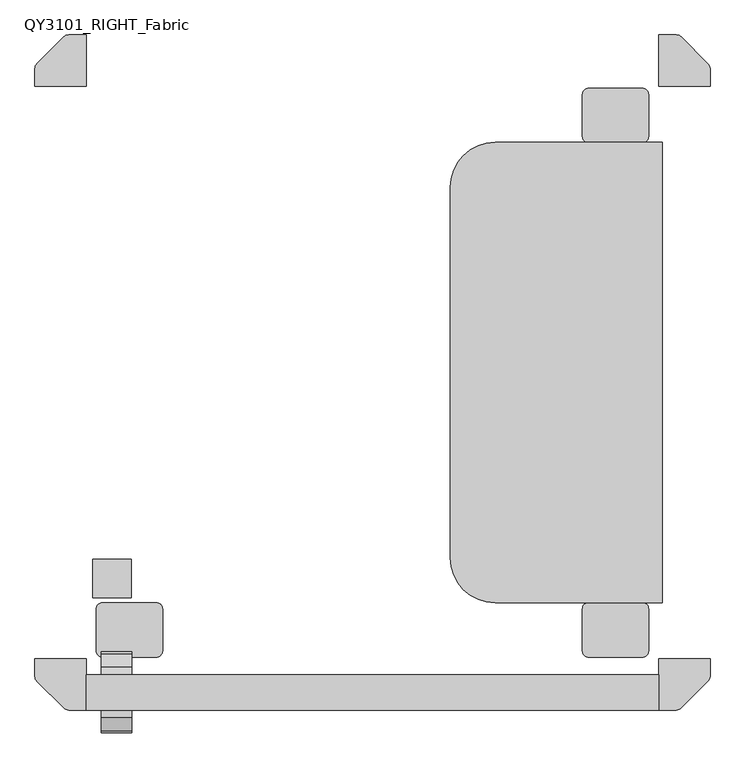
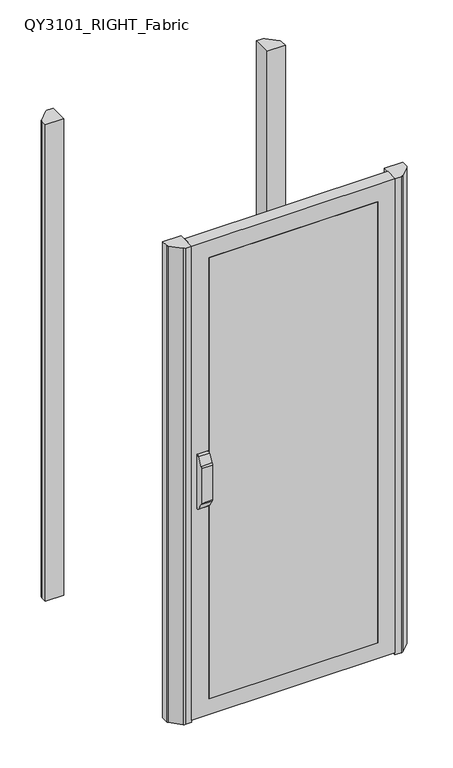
"""IFC4 building model written with IfcOpenShell, lengths in millimetres: furniture geometry, Qyos_100 : QY3101_RIGHT_Fabric."""

from ifc_helpers import new_model, si_unit, point, frame, frame_2d, origin, origin_with_axes, place, context, project, spatial, polyline, circle_curve, ellipse_curve, trimmed, segment, composite_curve, outline, extrude, source, transform, mapped, element, save
from ifc_brep_helpers import plane_surface, cylinder_surface, revolved_surface, advanced_brep


def qy3101_right_fabric_589a81fd(model_context):
    return source(origin(), model_context, "Body", "SolidModel", [
        advanced_brep(
        [(-374.085107, -525.6314016, 980.9779398), (-374.085107, -525.6314016, 985.9647191), (-374.085107, -537.9469969, 991.7354618), (-374.085107, -555.0438473, 1019.0961419), (-374.085107, -557.6320377, 1028.7554001), (-374.085107, -557.6320377, 1173.7554001), (-374.085107, -553.2020658, 1196.5456299), (-374.085107, -536.4262787, 1221.4167571), (-374.085107, -525.6314016, 1224.0702851), (-374.085107, -525.6314016, 1230.9669096), (-374.085107, -537.162848, 1226.3079029), (-374.085107, -557.7819627, 1194.5572505), (-374.085107, -560.5, 1186.1919919), (-374.085107, -560.5, 1025.2), (-374.085107, -557.5610872, 1017.1254034), (-374.085107, -537.1968679, 985.7672556), (-422.0329647, -525.6314016, 1230.9669096), (-422.0329647, -525.6314016, 980.9779398), (-422.0329647, -537.1968679, 985.7672556), (-422.0329647, -557.5610872, 1017.1254034), (-422.0329647, -560.5, 1025.2), (-422.0329647, -560.5, 1186.1919919), (-422.0329647, -557.7819627, 1194.5572505), (-422.0329647, -537.162848, 1226.3079029), (-419.3636893, -525.6314016, 1224.0702851), (-419.3636893, -525.6314016, 985.9647191), (-419.3636893, -537.9469969, 991.7354618), (-419.3636893, -536.4262787, 1221.4167571), (-419.3636893, -553.2020658, 1196.5456299), (-419.3636893, -557.6320377, 1173.7554001), (-419.3636893, -557.6320377, 1028.7554001), (-419.3636893, -555.0438473, 1019.0961419)],
        [
            (0, 1),
            (1, 2, circle_curve(frame((-374.085107, -525.4805644, 1002.3136249), z_axis=(-1.0, 0.0, 0.0), x_axis=(0.0, -1.0, 0.0)), 16.3496016)),
            (2, 3, circle_curve(frame((-374.085107, 1120.4570487, 2047.0433119), z_axis=(-1.0, 0.0, 0.0), x_axis=(0.0, -1.0, 0.0)), 1965.7005461)),
            (3, 4, circle_curve(frame((-374.085107, -540.0644692, 1028.286235), z_axis=(-1.0, 0.0, 0.0), x_axis=(0.0, -1.0, 0.0)), 17.5738323)),
            (4, 5),
            (5, 6, circle_curve(frame((-374.085107, -496.7942676, 1173.7554001), z_axis=(-1.0, 0.0, 0.0), x_axis=(0.0, -1.0, 0.0)), 60.8377701)),
            (6, 7, circle_curve(frame((-374.085107, -812.3576761, 1389.4415655), z_axis=(1.0, 0.0, 0.0), x_axis=(0.0, -1.0, 0.0)), 323.0641922)),
            (7, 8, circle_curve(frame((-374.085107, -525.6314016, 1200.7860796), z_axis=(-1.0, 0.0, 0.0), x_axis=(0.0, -1.0, 0.0)), 23.2842055)),
            (8, 9),
            (9, 10, circle_curve(frame((-374.085107, -527.4087289, 1218.7657801), z_axis=(1.0, 0.0, 0.0), x_axis=(0.0, -1.0, 0.0)), 12.3299009)),
            (10, 11, circle_curve(frame((-374.085107, 71.0762231, 808.7424006), z_axis=(1.0, 0.0, 0.0), x_axis=(0.0, -1.0, 0.0)), 737.777552)),
            (11, 12, circle_curve(frame((-374.085107, -541.7589098, 1184.7268438), z_axis=(1.0, 0.0, 0.0), x_axis=(0.0, -1.0, 0.0)), 18.7982744)),
            (12, 13),
            (13, 14, circle_curve(frame((-374.085107, -513.525418, 1037.7252129), z_axis=(1.0, 0.0, 0.0), x_axis=(0.0, -1.0, 0.0)), 48.615762)),
            (14, 15, circle_curve(frame((-374.085107, -160.5394908, 1252.6628295), z_axis=(1.0, 0.0, 0.0), x_axis=(0.0, -1.0, 0.0)), 461.6319174)),
            (15, 0, circle_curve(frame((-374.085107, -527.6091735, 992.560998), z_axis=(1.0, 0.0, 0.0), x_axis=(0.0, -1.0, 0.0)), 11.7506945)),
            (16, 17),
            (17, 18, circle_curve(frame((-422.0329647, -527.6091735, 992.560998), z_axis=(-1.0, 0.0, 0.0), x_axis=(0.0, -1.0, 0.0)), 11.7506945)),
            (18, 19, circle_curve(frame((-422.0329647, -160.5394908, 1252.6628295), z_axis=(-1.0, 0.0, 0.0), x_axis=(0.0, -1.0, 0.0)), 461.6319174)),
            (19, 20, circle_curve(frame((-422.0329647, -513.525418, 1037.7252129), z_axis=(-1.0, 0.0, 0.0), x_axis=(0.0, -1.0, 0.0)), 48.615762)),
            (20, 21),
            (21, 22, circle_curve(frame((-422.0329647, -541.7589098, 1184.7268438), z_axis=(-1.0, 0.0, 0.0), x_axis=(0.0, -1.0, 0.0)), 18.7982744)),
            (22, 23, circle_curve(frame((-422.0329647, 71.0762231, 808.7424006), z_axis=(-1.0, 0.0, 0.0), x_axis=(0.0, -1.0, 0.0)), 737.777552)),
            (23, 16, circle_curve(frame((-422.0329647, -527.4087289, 1218.7657801), z_axis=(-1.0, 0.0, 0.0), x_axis=(0.0, -1.0, 0.0)), 12.3299009)),
            (16, 9),
            (8, 24),
            (24, 25),
            (25, 1),
            (0, 17),
            (15, 18),
            (14, 19),
            (13, 20),
            (12, 21),
            (11, 22),
            (10, 23),
            (26, 25, circle_curve(frame((-419.3636893, -525.4805644, 1002.3136249), z_axis=(1.0, 0.0, 0.0), x_axis=(0.0, -1.0, 0.0)), 16.3496016)),
            (24, 27, circle_curve(frame((-419.3636893, -525.6314016, 1200.7860796), z_axis=(1.0, 0.0, 0.0), x_axis=(0.0, -1.0, 0.0)), 23.2842055)),
            (27, 28, circle_curve(frame((-419.3636893, -812.3576761, 1389.4415655), z_axis=(-1.0, 0.0, 0.0), x_axis=(0.0, -1.0, 0.0)), 323.0641922)),
            (28, 29, circle_curve(frame((-419.3636893, -496.7942676, 1173.7554001), z_axis=(1.0, 0.0, 0.0), x_axis=(0.0, -1.0, 0.0)), 60.8377701)),
            (29, 30),
            (30, 31, circle_curve(frame((-419.3636893, -540.0644692, 1028.286235), z_axis=(1.0, 0.0, 0.0), x_axis=(0.0, -1.0, 0.0)), 17.5738323)),
            (31, 26, circle_curve(frame((-419.3636893, 1120.4570487, 2047.0433119), z_axis=(1.0, 0.0, 0.0), x_axis=(0.0, -1.0, 0.0)), 1965.7005461)),
            (26, 2),
            (31, 3),
            (30, 4),
            (29, 5),
            (28, 6),
            (27, 7),
        ],
        [
            plane_surface(frame((-374.085107, -525.6314016, 980.9779398), z_axis=(1.0, 0.0, 0.0), x_axis=(0.0, 0.0, -1.0))),
            plane_surface(frame((-422.0329647, -525.6314016, 980.9779398), z_axis=(-1.0, 0.0, 0.0), x_axis=(0.0, 0.0, 1.0))),
            plane_surface(frame((-374.085107, -525.6314016, 1230.9669096), z_axis=(0.0, 1.0, 0.0), x_axis=(-1.0, 0.0, 0.0))),
            cylinder_surface(frame((-422.0329647, -527.6091735, 992.560998), z_axis=(1.0, 0.0, 0.0), x_axis=(0.0, -1.0, 0.0)), 11.7506945),
            cylinder_surface(frame((-422.0329647, -160.5394908, 1252.6628295), z_axis=(1.0, 0.0, 0.0), x_axis=(0.0, -1.0, 0.0)), 461.6319174),
            cylinder_surface(frame((-422.0329647, -513.525418, 1037.7252129), z_axis=(1.0, 0.0, 0.0), x_axis=(0.0, -1.0, 0.0)), 48.615762),
            plane_surface(frame((-374.085107, -560.5, 1025.2), z_axis=(0.0, -1.0, 0.0), x_axis=(-1.0, 0.0, 0.0))),
            cylinder_surface(frame((-422.0329647, -541.7589098, 1184.7268438), z_axis=(1.0, 0.0, 0.0), x_axis=(0.0, -1.0, 0.0)), 18.7982744),
            cylinder_surface(frame((-422.0329647, 71.0762231, 808.7424006), z_axis=(1.0, 0.0, 0.0), x_axis=(0.0, -1.0, 0.0)), 737.777552),
            cylinder_surface(frame((-422.0329647, -527.4087289, 1218.7657801), z_axis=(1.0, 0.0, 0.0), x_axis=(0.0, -1.0, 0.0)), 12.3299009),
            plane_surface(frame((-419.3636893, -511.7185794, 1224.0702851), z_axis=(1.0, 0.0, 0.0), x_axis=(0.0, 0.0, 1.0))),
            revolved_surface(polyline([(-374.085107, -541.8301660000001, 1002.3136249), (-419.3636893, -541.8301660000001, 1002.3136249)]), (-419.3636893, -525.4805644, 1002.3136249), (1.0, 0.0, 0.0)),
            revolved_surface(polyline([(-374.085107, -845.2434974, 2047.0433119), (-419.3636893, -845.2434974, 2047.0433119)]), (-419.3636893, 1120.4570487, 2047.0433119), (1.0, 0.0, 0.0)),
            revolved_surface(polyline([(-374.085107, -557.6383015, 1028.286235), (-419.3636893, -557.6383015, 1028.286235)]), (-419.3636893, -540.0644692, 1028.286235), (1.0, 0.0, 0.0)),
            plane_surface(frame((-366.879078, -557.6320377, 1028.7554001), z_axis=(0.0, 1.0, 0.0), x_axis=(-1.0, 0.0, 0.0))),
            revolved_surface(polyline([(-374.085107, -557.6320377, 1173.7554001), (-419.3636893, -557.6320377, 1173.7554001)]), (-419.3636893, -496.7942676, 1173.7554001), (1.0, 0.0, 0.0)),
            cylinder_surface(frame((-419.3636893, -812.3576761, 1389.4415655), z_axis=(-1.0, 0.0, 0.0), x_axis=(0.0, -1.0, 0.0)), 323.0641922),
            revolved_surface(polyline([(-374.085107, -548.9156071, 1200.7860796), (-419.3636893, -548.9156071, 1200.7860796)]), (-419.3636893, -525.6314016, 1200.7860796), (1.0, 0.0, 0.0)),
        ],
        [
            (0, [[1, 2, 3, 4, 5, 6, 7, 8, 9, 10, 11, 12, 13, 14, 15, 16]]),
            (1, [[17, 18, 19, 20, 21, 22, 23, 24]]),
            (2, [[25, -9, 26, 27, 28, -1, 29, -17]]),
            (3, [[30, -18, -29, -16]]),
            (4, [[31, -19, -30, -15]]),
            (5, [[32, -20, -31, -14]]),
            (6, [[33, -21, -32, -13]]),
            (7, [[34, -22, -33, -12]]),
            (8, [[35, -23, -34, -11]]),
            (9, [[-25, -24, -35, -10]]),
            (10, [[36, -27, 37, 38, 39, 40, 41, 42]]),
            (11, [[43, -2, -28, -36]]),
            (12, [[44, -3, -43, -42]]),
            (13, [[45, -4, -44, -41]]),
            (14, [[46, -5, -45, -40]]),
            (15, [[47, -6, -46, -39]]),
            (16, [[48, -7, -47, -38]]),
            (17, [[-26, -8, -48, -37]]),
        ],
    ),
        extrude(outline(composite_curve([segment(polyline([(1230.9669096, -377.0853832), (1230.9669096, -417.0486701)]), True, "CONTINUOUS"), segment(trimmed(circle_curve(frame_2d((1225.973762, -417.0486701)), 4.9931477), [point((1230.9669096, -417.0486701))], [point((1225.973762, -422.0418178))], False, "CARTESIAN"), True, "CONTINUOUS"), segment(polyline([(1225.973762, -422.0418178), (985.9710874, -422.0418178)]), True, "CONTINUOUS"), segment(trimmed(circle_curve(frame_2d((985.9710874, -417.0486701)), 4.9931477), [point((985.9710874, -422.0418178))], [point((980.9779398, -417.0486701))], False, "CARTESIAN"), True, "CONTINUOUS"), segment(polyline([(980.9779398, -417.0486701), (980.9779398, -377.0831887)]), True, "CONTINUOUS"), segment(trimmed(circle_curve(frame_2d((983.9760215, -377.0831887)), 2.9980817), [point((980.9779398, -377.0831887))], [point((983.9760215, -374.085107))], False, "CARTESIAN"), True, "CONTINUOUS"), segment(polyline([(983.9760215, -374.085107), (985.9777208, -374.085107)]), True, "CONTINUOUS"), segment(trimmed(circle_curve(frame_2d((985.9777208, -376.3357001)), 2.2505931), [point((985.9777208, -374.085107))], [point((988.1941223, -375.9448887))], False, "CARTESIAN"), True, "CONTINUOUS"), segment(trimmed(circle_curve(frame_2d((1002.686839, -375.1402608)), 14.5150358), [point((988.1941223, -375.9448887))], [point((999.6402401, -389.331966))], True, "CARTESIAN"), True, "CONTINUOUS"), segment(trimmed(circle_curve(frame_2d((999.3564071, -397.3512428)), 8.0242982), [point((999.6402401, -389.331966))], [point((1007.3803501, -397.4267349))], False, "CARTESIAN"), True, "CONTINUOUS"), segment(trimmed(circle_curve(frame_2d((984.8527266, -400.9632944)), 22.803532), [point((1007.3803501, -397.4267349))], [point((1007.3098217, -404.9230861))], False, "CARTESIAN"), True, "CONTINUOUS"), segment(trimmed(circle_curve(frame_2d((1018.7344643, -406.9375589)), 11.600886), [point((1007.3098217, -404.9230861))], [point((1018.7344643, -418.5384449))], True, "CARTESIAN"), True, "CONTINUOUS"), segment(polyline([(1018.7344643, -418.5384449), (1193.2103851, -418.5384449)]), True, "CONTINUOUS"), segment(trimmed(circle_curve(frame_2d((1193.2103851, -406.5714853)), 11.9669596), [point((1193.2103851, -418.5384449))], [point((1205.1773447, -406.5714853))], True, "CARTESIAN"), True, "CONTINUOUS"), segment(polyline([(1205.1773447, -406.5714853), (1205.1773447, -398.0395804)]), True, "CONTINUOUS"), segment(trimmed(circle_curve(frame_2d((1213.8757406, -398.0395804)), 8.6983958), [point((1205.1773447, -398.0395804))], [point((1212.36528, -389.4733327))], False, "CARTESIAN"), True, "CONTINUOUS"), segment(trimmed(circle_curve(frame_2d((1209.9037954, -375.5135599)), 14.1751248), [point((1212.36528, -389.4733327))], [point((1224.0702851, -376.0082646))], True, "CARTESIAN"), True, "CONTINUOUS"), segment(trimmed(circle_curve(frame_2d((1225.9934427, -376.0082646)), 1.9231576), [point((1224.0702851, -376.0082646))], [point((1225.9934427, -374.085107))], False, "CARTESIAN"), True, "CONTINUOUS"), segment(polyline([(1225.9934427, -374.085107), (1227.9666334, -374.085107)]), True, "CONTINUOUS"), segment(trimmed(circle_curve(frame_2d((1227.9666334, -377.0853832)), 3.0002762), [point((1227.9666334, -374.085107))], [point((1230.9669096, -377.0853832))], False, "CARTESIAN"), True, "CONTINUOUS")], self_intersect=False)), frame((0.0, -525.6314016, 0.0), z_axis=(0.0, 1.0, 0.0), x_axis=(0.0, 0.0, 1.0)), (0.0, 0.0, 1.0), 0.6314016),
        advanced_brep(
        [(-374.085107, -469.3642803, 980.9779398), (-374.085107, -457.798814, 985.7672556), (-374.085107, -437.4345947, 1017.1254034), (-374.085107, -434.4956819, 1025.2), (-374.085107, -434.4956819, 1186.1919919), (-374.085107, -437.2137192, 1194.5572505), (-374.085107, -457.8328339, 1226.3079029), (-374.085107, -469.3642803, 1230.9669096), (-374.085107, -469.3642803, 1224.0702851), (-374.085107, -458.5694032, 1221.4167571), (-374.085107, -441.7936161, 1196.5456299), (-374.085107, -437.3636441, 1173.7554001), (-374.085107, -437.3636441, 1028.7554001), (-374.085107, -439.9518346, 1019.0961419), (-374.085107, -457.048685, 991.7354618), (-374.085107, -469.3642803, 985.9647191), (-422.0329647, -469.3642803, 1230.9669096), (-422.0329647, -457.8328339, 1226.3079029), (-422.0329647, -437.2137192, 1194.5572505), (-422.0329647, -434.4956819, 1186.1919919), (-422.0329647, -434.4956819, 1025.2), (-422.0329647, -437.4345947, 1017.1254034), (-422.0329647, -457.798814, 985.7672556), (-422.0329647, -469.3642803, 980.9779398), (-419.3636893, -469.3642803, 985.9647191), (-419.3636893, -469.3642803, 1224.0702851), (-419.3636893, -457.048685, 991.7354618), (-419.3636893, -439.9518346, 1019.0961419), (-419.3636893, -437.3636441, 1028.7554001), (-419.3636893, -437.3636441, 1173.7554001), (-419.3636893, -441.7936161, 1196.5456299), (-419.3636893, -458.5694032, 1221.4167571)],
        [
            (0, 1, circle_curve(frame((-374.085107, -467.3865084, 992.560998), z_axis=(1.0, 0.0, 0.0), x_axis=(0.0, 1.0, 0.0)), 11.7506945)),
            (1, 2, circle_curve(frame((-374.085107, -834.4561911, 1252.6628295), z_axis=(1.0, 0.0, 0.0), x_axis=(0.0, 1.0, 0.0)), 461.6319174)),
            (2, 3, circle_curve(frame((-374.085107, -481.4702639, 1037.7252129), z_axis=(1.0, 0.0, 0.0), x_axis=(0.0, 1.0, 0.0)), 48.615762)),
            (3, 4),
            (4, 5, circle_curve(frame((-374.085107, -453.236772, 1184.7268438), z_axis=(1.0, 0.0, 0.0), x_axis=(0.0, 1.0, 0.0)), 18.7982744)),
            (5, 6, circle_curve(frame((-374.085107, -1066.071905, 808.7424006), z_axis=(1.0, 0.0, 0.0), x_axis=(0.0, 1.0, 0.0)), 737.777552)),
            (6, 7, circle_curve(frame((-374.085107, -467.586953, 1218.7657801), z_axis=(1.0, 0.0, 0.0), x_axis=(0.0, 1.0, 0.0)), 12.3299009)),
            (7, 8),
            (8, 9, circle_curve(frame((-374.085107, -469.3642803, 1200.7860796), z_axis=(-1.0, 0.0, 0.0), x_axis=(0.0, 1.0, 0.0)), 23.2842055)),
            (9, 10, circle_curve(frame((-374.085107, -182.6380058, 1389.4415655), z_axis=(1.0, 0.0, 0.0), x_axis=(0.0, 1.0, 0.0)), 323.0641922)),
            (10, 11, circle_curve(frame((-374.085107, -498.2014142, 1173.7554001), z_axis=(-1.0, 0.0, 0.0), x_axis=(0.0, 1.0, 0.0)), 60.8377701)),
            (11, 12),
            (12, 13, circle_curve(frame((-374.085107, -454.9312127, 1028.286235), z_axis=(-1.0, 0.0, 0.0), x_axis=(0.0, 1.0, 0.0)), 17.5738323)),
            (13, 14, circle_curve(frame((-374.085107, -2115.4527306, 2047.0433119), z_axis=(-1.0, 0.0, 0.0), x_axis=(0.0, 1.0, 0.0)), 1965.7005461)),
            (14, 15, circle_curve(frame((-374.085107, -469.5151175, 1002.3136249), z_axis=(-1.0, 0.0, 0.0), x_axis=(0.0, 1.0, 0.0)), 16.3496016)),
            (15, 0),
            (16, 17, circle_curve(frame((-422.0329647, -467.586953, 1218.7657801), z_axis=(-1.0, 0.0, 0.0), x_axis=(0.0, 1.0, 0.0)), 12.3299009)),
            (17, 18, circle_curve(frame((-422.0329647, -1066.071905, 808.7424006), z_axis=(-1.0, 0.0, 0.0), x_axis=(0.0, 1.0, 0.0)), 737.777552)),
            (18, 19, circle_curve(frame((-422.0329647, -453.236772, 1184.7268438), z_axis=(-1.0, 0.0, 0.0), x_axis=(0.0, 1.0, 0.0)), 18.7982744)),
            (19, 20),
            (20, 21, circle_curve(frame((-422.0329647, -481.4702639, 1037.7252129), z_axis=(-1.0, 0.0, 0.0), x_axis=(0.0, 1.0, 0.0)), 48.615762)),
            (21, 22, circle_curve(frame((-422.0329647, -834.4561911, 1252.6628295), z_axis=(-1.0, 0.0, 0.0), x_axis=(0.0, 1.0, 0.0)), 461.6319174)),
            (22, 23, circle_curve(frame((-422.0329647, -467.3865084, 992.560998), z_axis=(-1.0, 0.0, 0.0), x_axis=(0.0, 1.0, 0.0)), 11.7506945)),
            (23, 16),
            (23, 0),
            (15, 24),
            (24, 25),
            (25, 8),
            (7, 16),
            (22, 1),
            (21, 2),
            (20, 3),
            (19, 4),
            (18, 5),
            (17, 6),
            (26, 27, circle_curve(frame((-419.3636893, -2115.4527306, 2047.0433119), z_axis=(1.0, 0.0, 0.0), x_axis=(0.0, 1.0, 0.0)), 1965.7005461)),
            (27, 28, circle_curve(frame((-419.3636893, -454.9312127, 1028.286235), z_axis=(1.0, 0.0, 0.0), x_axis=(0.0, 1.0, 0.0)), 17.5738323)),
            (28, 29),
            (29, 30, circle_curve(frame((-419.3636893, -498.2014142, 1173.7554001), z_axis=(1.0, 0.0, 0.0), x_axis=(0.0, 1.0, 0.0)), 60.8377701)),
            (30, 31, circle_curve(frame((-419.3636893, -182.6380058, 1389.4415655), z_axis=(-1.0, 0.0, 0.0), x_axis=(0.0, 1.0, 0.0)), 323.0641922)),
            (31, 25, circle_curve(frame((-419.3636893, -469.3642803, 1200.7860796), z_axis=(1.0, 0.0, 0.0), x_axis=(0.0, 1.0, 0.0)), 23.2842055)),
            (24, 26, circle_curve(frame((-419.3636893, -469.5151175, 1002.3136249), z_axis=(1.0, 0.0, 0.0), x_axis=(0.0, 1.0, 0.0)), 16.3496016)),
            (14, 26),
            (13, 27),
            (12, 28),
            (11, 29),
            (10, 30),
            (9, 31),
        ],
        [
            plane_surface(frame((-374.085107, -469.3642803, 980.9779398), z_axis=(1.0, 0.0, 0.0), x_axis=(0.0, 0.0, -1.0))),
            plane_surface(frame((-422.0329647, -469.3642803, 980.9779398), z_axis=(-1.0, 0.0, 0.0), x_axis=(0.0, 0.0, 1.0))),
            plane_surface(frame((-374.085107, -469.3642803, 1230.9669096), z_axis=(0.0, -1.0, 0.0), x_axis=(-1.0, 0.0, 0.0))),
            cylinder_surface(frame((-422.0329647, -467.3865084, 992.560998), z_axis=(1.0, 0.0, 0.0), x_axis=(0.0, 1.0, 0.0)), 11.7506945),
            cylinder_surface(frame((-422.0329647, -834.4561911, 1252.6628295), z_axis=(1.0, 0.0, 0.0), x_axis=(0.0, 1.0, 0.0)), 461.6319174),
            cylinder_surface(frame((-422.0329647, -481.4702639, 1037.7252129), z_axis=(1.0, 0.0, 0.0), x_axis=(0.0, 1.0, 0.0)), 48.615762),
            plane_surface(frame((-374.085107, -434.4956819, 1025.2), z_axis=(0.0, 1.0, 0.0), x_axis=(-1.0, 0.0, 0.0))),
            cylinder_surface(frame((-422.0329647, -453.236772, 1184.7268438), z_axis=(1.0, 0.0, 0.0), x_axis=(0.0, 1.0, 0.0)), 18.7982744),
            cylinder_surface(frame((-422.0329647, -1066.071905, 808.7424006), z_axis=(1.0, 0.0, 0.0), x_axis=(0.0, 1.0, 0.0)), 737.777552),
            cylinder_surface(frame((-422.0329647, -467.586953, 1218.7657801), z_axis=(1.0, 0.0, 0.0), x_axis=(0.0, 1.0, 0.0)), 12.3299009),
            plane_surface(frame((-419.3636893, -483.2771024, 1224.0702851), z_axis=(1.0, 0.0, 0.0), x_axis=(0.0, 0.0, 1.0))),
            revolved_surface(polyline([(-374.085107, -453.16551589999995, 1002.3136249), (-419.3636893, -453.16551589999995, 1002.3136249)]), (-419.3636893, -469.5151175, 1002.3136249), (1.0, 0.0, 0.0)),
            revolved_surface(polyline([(-374.085107, -149.75218449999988, 2047.0433119), (-419.3636893, -149.75218449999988, 2047.0433119)]), (-419.3636893, -2115.4527306, 2047.0433119), (1.0, 0.0, 0.0)),
            revolved_surface(polyline([(-374.085107, -437.3573804, 1028.286235), (-419.3636893, -437.3573804, 1028.286235)]), (-419.3636893, -454.9312127, 1028.286235), (1.0, 0.0, 0.0)),
            plane_surface(frame((-366.879078, -437.3636441, 1028.7554001), z_axis=(0.0, -1.0, 0.0), x_axis=(-1.0, 0.0, 0.0))),
            revolved_surface(polyline([(-374.085107, -437.3636441, 1173.7554001), (-419.3636893, -437.3636441, 1173.7554001)]), (-419.3636893, -498.2014142, 1173.7554001), (1.0, 0.0, 0.0)),
            cylinder_surface(frame((-419.3636893, -182.6380058, 1389.4415655), z_axis=(-1.0, 0.0, 0.0), x_axis=(0.0, 1.0, 0.0)), 323.0641922),
            revolved_surface(polyline([(-374.085107, -446.08007480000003, 1200.7860796), (-419.3636893, -446.08007480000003, 1200.7860796)]), (-419.3636893, -469.3642803, 1200.7860796), (1.0, 0.0, 0.0)),
        ],
        [
            (0, [[1, 2, 3, 4, 5, 6, 7, 8, 9, 10, 11, 12, 13, 14, 15, 16]]),
            (1, [[17, 18, 19, 20, 21, 22, 23, 24]]),
            (2, [[-24, 25, -16, 26, 27, 28, -8, 29]]),
            (3, [[-1, -25, -23, 30]]),
            (4, [[-2, -30, -22, 31]]),
            (5, [[-3, -31, -21, 32]]),
            (6, [[-4, -32, -20, 33]]),
            (7, [[-5, -33, -19, 34]]),
            (8, [[-6, -34, -18, 35]]),
            (9, [[-7, -35, -17, -29]]),
            (10, [[36, 37, 38, 39, 40, 41, -27, 42]]),
            (11, [[-42, -26, -15, 43]]),
            (12, [[-36, -43, -14, 44]]),
            (13, [[-37, -44, -13, 45]]),
            (14, [[-38, -45, -12, 46]]),
            (15, [[-39, -46, -11, 47]]),
            (16, [[-40, -47, -10, 48]]),
            (17, [[-41, -48, -9, -28]]),
        ],
    ),
        extrude(outline(composite_curve([segment(polyline([(1230.9669096, -377.0853832), (1230.9669096, -417.0486701)]), True, "CONTINUOUS"), segment(trimmed(circle_curve(frame_2d((1225.973762, -417.0486701)), 4.9931477), [point((1230.9669096, -417.0486701))], [point((1225.973762, -422.0418178))], False, "CARTESIAN"), True, "CONTINUOUS"), segment(polyline([(1225.973762, -422.0418178), (985.9710874, -422.0418178)]), True, "CONTINUOUS"), segment(trimmed(circle_curve(frame_2d((985.9710874, -417.0486701)), 4.9931477), [point((985.9710874, -422.0418178))], [point((980.9779398, -417.0486701))], False, "CARTESIAN"), True, "CONTINUOUS"), segment(polyline([(980.9779398, -417.0486701), (980.9779398, -377.0831887)]), True, "CONTINUOUS"), segment(trimmed(circle_curve(frame_2d((983.9760215, -377.0831887)), 2.9980817), [point((980.9779398, -377.0831887))], [point((983.9760215, -374.085107))], False, "CARTESIAN"), True, "CONTINUOUS"), segment(polyline([(983.9760215, -374.085107), (985.9777208, -374.085107)]), True, "CONTINUOUS"), segment(trimmed(circle_curve(frame_2d((985.9777208, -376.3357001)), 2.2505931), [point((985.9777208, -374.085107))], [point((988.1941223, -375.9448887))], False, "CARTESIAN"), True, "CONTINUOUS"), segment(trimmed(circle_curve(frame_2d((1002.686839, -375.1402608)), 14.5150358), [point((988.1941223, -375.9448887))], [point((999.6402401, -389.331966))], True, "CARTESIAN"), True, "CONTINUOUS"), segment(trimmed(circle_curve(frame_2d((999.3564071, -397.3512428)), 8.0242982), [point((999.6402401, -389.331966))], [point((1007.3803501, -397.4267349))], False, "CARTESIAN"), True, "CONTINUOUS"), segment(trimmed(circle_curve(frame_2d((984.8527266, -400.9632944)), 22.803532), [point((1007.3803501, -397.4267349))], [point((1007.3098217, -404.9230861))], False, "CARTESIAN"), True, "CONTINUOUS"), segment(trimmed(circle_curve(frame_2d((1018.7344643, -406.9375589)), 11.600886), [point((1007.3098217, -404.9230861))], [point((1018.7344643, -418.5384449))], True, "CARTESIAN"), True, "CONTINUOUS"), segment(polyline([(1018.7344643, -418.5384449), (1193.2103851, -418.5384449)]), True, "CONTINUOUS"), segment(trimmed(circle_curve(frame_2d((1193.2103851, -406.5714853)), 11.9669596), [point((1193.2103851, -418.5384449))], [point((1205.1773447, -406.5714853))], True, "CARTESIAN"), True, "CONTINUOUS"), segment(polyline([(1205.1773447, -406.5714853), (1205.1773447, -398.0395804)]), True, "CONTINUOUS"), segment(trimmed(circle_curve(frame_2d((1213.8757406, -398.0395804)), 8.6983958), [point((1205.1773447, -398.0395804))], [point((1212.36528, -389.4733327))], False, "CARTESIAN"), True, "CONTINUOUS"), segment(trimmed(circle_curve(frame_2d((1209.9037954, -375.5135599)), 14.1751248), [point((1212.36528, -389.4733327))], [point((1224.0702851, -376.0082646))], True, "CARTESIAN"), True, "CONTINUOUS"), segment(trimmed(circle_curve(frame_2d((1225.9934427, -376.0082646)), 1.9231576), [point((1224.0702851, -376.0082646))], [point((1225.9934427, -374.085107))], False, "CARTESIAN"), True, "CONTINUOUS"), segment(polyline([(1225.9934427, -374.085107), (1227.9666334, -374.085107)]), True, "CONTINUOUS"), segment(trimmed(circle_curve(frame_2d((1227.9666334, -377.0853832)), 3.0002762), [point((1227.9666334, -374.085107))], [point((1230.9669096, -377.0853832))], False, "CARTESIAN"), True, "CONTINUOUS")], self_intersect=False)), frame((0.0, -469.9956819, 0.0), z_axis=(0.0, 1.0, 0.0), x_axis=(0.0, 0.0, 1.0)), (0.0, 0.0, 1.0), 0.6314016),
        extrude(outline(polyline([(369.5, -525.0), (-369.5, -525.0), (-369.5, -520.0), (369.5, -520.0), (369.5, -525.0)])), frame((0.0, 0.0, 82.0), z_axis=(0.0, 0.0, 1.0), x_axis=(1.0, 0.0, 0.0)), (0.0, 0.0, 1.0), 2040.1),
        extrude(outline(polyline([(10.0, -445.0), (10.0, 445.0), (2202.1, 445.0), (2202.1, -445.0), (10.0, -445.0)]), holes=[polyline([(82.0, 369.5), (82.0, -369.5), (2122.1, -369.5), (2122.1, 369.5), (82.0, 369.5)])]), frame((0.0, -525.0, 0.0), z_axis=(0.0, 1.0, 0.0), x_axis=(0.0, 0.0, 1.0)), (0.0, 0.0, 1.0), 55.0043181),
        extrude(outline(composite_curve([segment(polyline([(451.0, -358.0), (191.0, -358.0)]), True, "CONTINUOUS"), segment(trimmed(circle_curve(frame_2d((191.0, -288.0)), 70.0), [point((191.0, -358.0))], [point((121.0, -288.0))], False, "CARTESIAN"), True, "CONTINUOUS"), segment(polyline([(121.0, -288.0), (121.0, 288.0)]), True, "CONTINUOUS"), segment(trimmed(circle_curve(frame_2d((191.0, 288.0)), 70.0), [point((121.0, 288.0))], [point((191.0, 358.0))], False, "CARTESIAN"), True, "CONTINUOUS"), segment(polyline([(191.0, 358.0), (451.0, 358.0), (451.0, -358.0)]), True, "CONTINUOUS")], self_intersect=False)), frame((0.0, 0.0, 1128.0), z_axis=(0.0, 0.0, 1.0), x_axis=(1.0, 0.0, 0.0)), (0.0, 0.0, 1.0), 19.0),
        extrude(outline(composite_curve([segment(polyline([(-445.0, 445.0), (-525.0, 445.0), (-525.0, 472.5536246)]), True, "CONTINUOUS"), segment(trimmed(circle_curve(frame_2d((-513.0024364, 472.3118252)), 12.0), [point((-525.0, 472.5536246))], [point((-521.7960176, 480.4771745))], False, "CARTESIAN"), True, "CONTINUOUS"), segment(trimmed(circle_curve(frame_2d((56.5696169, -56.568803)), 789.2560985), [point((-521.7960176, 480.4771745))], [point((-480.4763607, 521.7968315))], False, "CARTESIAN"), True, "CONTINUOUS"), segment(trimmed(circle_curve(frame_2d((-472.3110114, 513.0032502)), 12.0), [point((-480.4763607, 521.7968315))], [point((-472.5902872, 525.0))], False, "CARTESIAN"), True, "CONTINUOUS"), segment(polyline([(-472.5902872, 525.0), (-445.0, 525.0), (-445.0, 445.0)]), True, "CONTINUOUS")], self_intersect=False)), origin_with_axes(), (0.0, 0.0, 1.0), 2202.1),
        extrude(outline(composite_curve([segment(polyline([(445.0, 445.0), (445.0, 525.0), (472.5536246, 525.0)]), True, "CONTINUOUS"), segment(trimmed(circle_curve(frame_2d((472.3118252, 513.0024364)), 12.0), [point((472.5536246, 525.0))], [point((480.4771745, 521.7960176))], False, "CARTESIAN"), True, "CONTINUOUS"), segment(trimmed(circle_curve(frame_2d((-56.568803, -56.5696169)), 789.2560985), [point((480.4771745, 521.7960176))], [point((521.7968315, 480.4763607))], False, "CARTESIAN"), True, "CONTINUOUS"), segment(trimmed(circle_curve(frame_2d((513.0032502, 472.3110114)), 12.0), [point((521.7968315, 480.4763607))], [point((525.0, 472.5902872))], False, "CARTESIAN"), True, "CONTINUOUS"), segment(polyline([(525.0, 472.5902872), (525.0, 445.0), (445.0, 445.0)]), True, "CONTINUOUS")], self_intersect=False)), origin_with_axes(), (0.0, 0.0, 1.0), 2202.1),
        extrude(outline(composite_curve([segment(polyline([(445.0, -445.0), (525.0, -445.0), (525.0, -472.5536246)]), True, "CONTINUOUS"), segment(trimmed(circle_curve(frame_2d((513.0024364, -472.3118252)), 12.0), [point((525.0, -472.5536246))], [point((521.7960176, -480.4771745))], False, "CARTESIAN"), True, "CONTINUOUS"), segment(trimmed(circle_curve(frame_2d((-56.5696169, 56.568803)), 789.2560985), [point((521.7960176, -480.4771745))], [point((480.4763607, -521.7968315))], False, "CARTESIAN"), True, "CONTINUOUS"), segment(trimmed(circle_curve(frame_2d((472.3110114, -513.0032502)), 12.0), [point((480.4763607, -521.7968315))], [point((472.5902872, -525.0))], False, "CARTESIAN"), True, "CONTINUOUS"), segment(polyline([(472.5902872, -525.0), (445.0, -525.0), (445.0, -445.0)]), True, "CONTINUOUS")], self_intersect=False)), origin_with_axes(), (0.0, 0.0, 1.0), 2202.1),
        extrude(outline(composite_curve([segment(polyline([(-445.0, -445.0), (-445.0, -525.0), (-472.5536246, -525.0)]), True, "CONTINUOUS"), segment(trimmed(circle_curve(frame_2d((-472.3118252, -513.0024364)), 12.0), [point((-472.5536246, -525.0))], [point((-480.4771745, -521.7960176))], False, "CARTESIAN"), True, "CONTINUOUS"), segment(trimmed(circle_curve(frame_2d((56.568803, 56.5696169)), 789.2560985), [point((-480.4771745, -521.7960176))], [point((-521.7968315, -480.4763607))], False, "CARTESIAN"), True, "CONTINUOUS"), segment(trimmed(circle_curve(frame_2d((-513.0032502, -472.3110114)), 12.0), [point((-521.7968315, -480.4763607))], [point((-525.0, -472.5902872))], False, "CARTESIAN"), True, "CONTINUOUS"), segment(polyline([(-525.0, -472.5902872), (-525.0, -445.0), (-445.0, -445.0)]), True, "CONTINUOUS")], self_intersect=False)), origin_with_axes(), (0.0, 0.0, 1.0), 2202.1),
        extrude(outline(composite_curve([segment(trimmed(circle_curve(frame_2d((-320.0, 17.6301284)), 17.6301284), [point((-302.3698716, 17.6301284))], [point((-337.6301284, 17.6301284))], False, "CARTESIAN"), True, "CONTINUOUS"), segment(trimmed(circle_curve(frame_2d((-320.0, 17.6301284)), 17.6301284), [point((-337.6301284, 17.6301284))], [point((-302.3698716, 17.6301284))], False, "CARTESIAN"), True, "CONTINUOUS")], self_intersect=False)), frame((391.5330052, 0.0, 0.0), z_axis=(1.0, 0.0, 0.0), x_axis=(0.0, 1.0, 0.0)), (0.0, 0.0, 1.0), 26.9339897),
        extrude(outline(composite_curve([segment(trimmed(circle_curve(frame_2d((405.0, -320.0)), 20.0), [point((425.0, -320.0))], [point((385.0, -320.0))], False, "CARTESIAN"), True, "CONTINUOUS"), segment(trimmed(circle_curve(frame_2d((405.0, -320.0)), 20.0), [point((385.0, -320.0))], [point((425.0, -320.0))], False, "CARTESIAN"), True, "CONTINUOUS")], self_intersect=False)), frame((0.0, 0.0, 35.2602568), z_axis=(0.0, 0.0, 1.0), x_axis=(1.0, 0.0, 0.0)), (0.0, 0.0, 1.0), 7.0),
        extrude(outline(polyline([(435.0, -290.0), (435.0, -350.0), (375.0, -350.0), (375.0, -290.0), (435.0, -290.0)])), frame((0.0, 0.0, 42.2602568), z_axis=(0.0, 0.0, 1.0), x_axis=(1.0, 0.0, 0.0)), (0.0, 0.0, 1.0), 4.7397432),
        extrude(outline(composite_curve([segment(trimmed(circle_curve(frame_2d((-320.0, 17.6301284)), 17.6301284), [point((-302.3698716, 17.6301284))], [point((-337.6301284, 17.6301284))], False, "CARTESIAN"), True, "CONTINUOUS"), segment(trimmed(circle_curve(frame_2d((-320.0, 17.6301284)), 17.6301284), [point((-337.6301284, 17.6301284))], [point((-302.3698716, 17.6301284))], False, "CARTESIAN"), True, "CONTINUOUS")], self_intersect=False)), frame((-418.4669948, 0.0, 0.0), z_axis=(1.0, 0.0, 0.0), x_axis=(0.0, 1.0, 0.0)), (0.0, 0.0, 1.0), 26.9339897),
        extrude(outline(composite_curve([segment(trimmed(circle_curve(frame_2d((-405.0, -320.0)), 20.0), [point((-425.0, -320.0))], [point((-385.0, -320.0))], False, "CARTESIAN"), True, "CONTINUOUS"), segment(trimmed(circle_curve(frame_2d((-405.0, -320.0)), 20.0), [point((-385.0, -320.0))], [point((-425.0, -320.0))], False, "CARTESIAN"), True, "CONTINUOUS")], self_intersect=False)), frame((0.0, 0.0, 35.2602568), z_axis=(0.0, 0.0, 1.0), x_axis=(1.0, 0.0, 0.0)), (0.0, 0.0, 1.0), 7.0),
        extrude(outline(polyline([(-435.0, -290.0), (-375.0, -290.0), (-375.0, -350.0), (-435.0, -350.0), (-435.0, -290.0)])), frame((0.0, 0.0, 42.2602568), z_axis=(0.0, 0.0, 1.0), x_axis=(1.0, 0.0, 0.0)), (0.0, 0.0, 1.0), 4.7397432),
        extrude(outline(composite_curve([segment(trimmed(circle_curve(frame_2d((320.0, 17.6301284)), 17.6301284), [point((302.3698716, 17.6301284))], [point((337.6301284, 17.6301284))], False, "CARTESIAN"), True, "CONTINUOUS"), segment(trimmed(circle_curve(frame_2d((320.0, 17.6301284)), 17.6301284), [point((337.6301284, 17.6301284))], [point((302.3698716, 17.6301284))], False, "CARTESIAN"), True, "CONTINUOUS")], self_intersect=False)), frame((391.5330052, 0.0, 0.0), z_axis=(1.0, 0.0, 0.0), x_axis=(0.0, 1.0, 0.0)), (0.0, 0.0, 1.0), 26.9339897),
        extrude(outline(composite_curve([segment(trimmed(circle_curve(frame_2d((405.0, 320.0)), 20.0), [point((425.0, 320.0))], [point((385.0, 320.0))], False, "CARTESIAN"), True, "CONTINUOUS"), segment(trimmed(circle_curve(frame_2d((405.0, 320.0)), 20.0), [point((385.0, 320.0))], [point((425.0, 320.0))], False, "CARTESIAN"), True, "CONTINUOUS")], self_intersect=False)), frame((0.0, 0.0, 35.2602568), z_axis=(0.0, 0.0, 1.0), x_axis=(1.0, 0.0, 0.0)), (0.0, 0.0, 1.0), 7.0),
        extrude(outline(polyline([(435.0, 290.0), (375.0, 290.0), (375.0, 350.0), (435.0, 350.0), (435.0, 290.0)])), frame((0.0, 0.0, 42.2602568), z_axis=(0.0, 0.0, 1.0), x_axis=(1.0, 0.0, 0.0)), (0.0, 0.0, 1.0), 4.7397432),
        advanced_brep(
        [(389.0102872, -400.0, 7.0), (366.9897128, -400.0, 7.0), (378.0, -400.0, 7.0), (390.853369, -400.0, 8.8430818), (365.146631, -400.0, 8.8430818), (393.1395917, -400.0, 37.8922955), (362.8604083, -400.0, 37.8922955), (397.5075531, -400.0, 42.2602568), (358.4924469, -400.0, 42.2602568), (378.0, -400.0, 42.2602568)],
        [
            (0, 1, circle_curve(frame((378.0, -400.0, 7.0), z_axis=(0.0, 0.0, -1.0), x_axis=(-1.0, 0.0, 0.0)), 11.0102872)),
            (1, 2),
            (2, 0),
            (1, 0, circle_curve(frame((378.0, -400.0, 7.0), z_axis=(0.0, 0.0, -1.0), x_axis=(-1.0, 0.0, 0.0)), 11.0102872)),
            (3, 4, circle_curve(frame((378.0, -400.0, 8.8430818), z_axis=(0.0, 0.0, -1.0), x_axis=(-1.0, 0.0, 0.0)), 12.853369)),
            (4, 1, circle_curve(frame((366.9897128, -400.0, 8.8430818), z_axis=(0.0, -1.0, 0.0), x_axis=(-1.0, 0.0, 0.0)), 1.8430818)),
            (0, 3, circle_curve(frame((389.0102872, -400.0, 8.8430818), z_axis=(0.0, -1.0, 0.0), x_axis=(1.0, 0.0, 0.0)), 1.8430818)),
            (4, 3, circle_curve(frame((378.0, -400.0, 8.8430818), z_axis=(0.0, 0.0, -1.0), x_axis=(-1.0, 0.0, 0.0)), 12.853369)),
            (5, 6, circle_curve(frame((378.0, -400.0, 37.8922955), z_axis=(0.0, 0.0, -1.0), x_axis=(-1.0, 0.0, 0.0)), 15.1395917)),
            (6, 4),
            (3, 5),
            (6, 5, circle_curve(frame((378.0, -400.0, 37.8922955), z_axis=(0.0, 0.0, -1.0), x_axis=(-1.0, 0.0, 0.0)), 15.1395917)),
            (7, 8, circle_curve(frame((378.0, -400.0, 42.2602568), z_axis=(0.0, 0.0, -1.0), x_axis=(-1.0, 0.0, 0.0)), 19.5075531)),
            (8, 6, circle_curve(frame((358.4924469, -400.0, 37.8922955), z_axis=(0.0, 1.0, 0.0), x_axis=(-1.0, 0.0, 0.0)), 4.3679613)),
            (5, 7, circle_curve(frame((397.5075531, -400.0, 37.8922955), z_axis=(0.0, 1.0, 0.0), x_axis=(1.0, 0.0, 0.0)), 4.3679613)),
            (8, 7, circle_curve(frame((378.0, -400.0, 42.2602568), z_axis=(0.0, 0.0, -1.0), x_axis=(-1.0, 0.0, 0.0)), 19.5075531)),
            (9, 8),
            (7, 9),
        ],
        [
            plane_surface(frame((378.0, -400.0, 7.0), z_axis=(0.0, 0.0, -1.0), x_axis=(-1.0, 0.0, 0.0))),
            revolved_surface(trimmed(ellipse_curve(frame((366.9897128, -400.0, 8.8430818), z_axis=(0.0, 1.0, 0.0), x_axis=(-1.0, 0.0, 0.0)), 1.8430818, 1.8430818), [point((366.9897128, -400.0, 7.0))], [point((365.146631, -400.0, 8.8430818))], True, "CARTESIAN"), (378.0, -400.0, 1997.4144888), (0.0, 0.0, 1.0)),
            revolved_surface(polyline([(365.146631, -400.0, 8.8430818), (362.8604083, -400.0, 37.8922955)]), (378.0, -400.0, 1997.4144888), (0.0, 0.0, 1.0)),
            revolved_surface(trimmed(ellipse_curve(frame((358.4924469, -400.0, 37.8922955), z_axis=(0.0, -1.0, 0.0), x_axis=(-1.0, 0.0, 0.0)), 4.3679613, 4.3679613), [point((362.8604083, -400.0, 37.8922955))], [point((358.4924469, -400.0, 42.2602568))], True, "CARTESIAN"), (378.0, -400.0, 1997.4144888), (0.0, 0.0, 1.0)),
            plane_surface(frame((378.0, -400.0, 42.2602568), z_axis=(0.0, 0.0, 1.0), x_axis=(-1.0, 0.0, 0.0))),
        ],
        [
            (0, [[1, 2, 3]]),
            (0, [[4, -3, -2]]),
            (1, [[5, 6, -1, 7]]),
            (1, [[8, -7, -4, -6]]),
            (2, [[9, 10, -5, 11]]),
            (2, [[12, -11, -8, -10]]),
            (3, [[13, 14, -9, 15]]),
            (3, [[16, -15, -12, -14]]),
            (4, [[17, -13, 18]]),
            (4, [[-18, -16, -17]]),
        ],
    ),
        extrude(outline(composite_curve([segment(trimmed(circle_curve(frame_2d((378.0, -400.0)), 23.1414644), [point((401.1414644, -400.0))], [point((354.8585356, -400.0))], False, "CARTESIAN"), True, "CONTINUOUS"), segment(trimmed(circle_curve(frame_2d((378.0, -400.0)), 23.1414644), [point((354.8585356, -400.0))], [point((401.1414644, -400.0))], False, "CARTESIAN"), True, "CONTINUOUS")], self_intersect=False)), origin_with_axes(), (0.0, 0.0, 1.0), 7.0),
        extrude(outline(composite_curve([segment(trimmed(circle_curve(frame_2d((336.5, -432.5)), 10.0), [point((336.5, -442.5))], [point((326.5, -432.5))], False, "CARTESIAN"), True, "CONTINUOUS"), segment(polyline([(326.5, -432.5), (326.5, -367.5)]), True, "CONTINUOUS"), segment(trimmed(circle_curve(frame_2d((336.5, -367.5)), 10.0), [point((326.5, -367.5))], [point((336.5, -357.5))], False, "CARTESIAN"), True, "CONTINUOUS"), segment(polyline([(336.5, -357.5), (419.5, -357.5)]), True, "CONTINUOUS"), segment(trimmed(circle_curve(frame_2d((419.5, -367.5)), 10.0), [point((419.5, -357.5))], [point((429.5, -367.5))], False, "CARTESIAN"), True, "CONTINUOUS"), segment(polyline([(429.5, -367.5), (429.5, -432.5)]), True, "CONTINUOUS"), segment(trimmed(circle_curve(frame_2d((419.5, -432.5)), 10.0), [point((429.5, -432.5))], [point((419.5, -442.5))], False, "CARTESIAN"), True, "CONTINUOUS"), segment(polyline([(419.5, -442.5), (336.5, -442.5)]), True, "CONTINUOUS")], self_intersect=False)), frame((0.0, 0.0, 42.2602568), z_axis=(0.0, 0.0, 1.0), x_axis=(1.0, 0.0, 0.0)), (0.0, 0.0, 1.0), 4.7397432),
        advanced_brep(
        [(-389.0102872, -400.0, 7.0), (-378.0, -400.0, 7.0), (-366.9897128, -400.0, 7.0), (-390.853369, -400.0, 8.8430818), (-365.146631, -400.0, 8.8430818), (-393.1395917, -400.0, 37.8922955), (-362.8604083, -400.0, 37.8922955), (-397.5075531, -400.0, 42.2602568), (-358.4924469, -400.0, 42.2602568), (-378.0, -400.0, 42.2602568)],
        [
            (0, 1),
            (1, 2),
            (2, 0, circle_curve(frame((-378.0, -400.0, 7.0), z_axis=(0.0, 0.0, -1.0), x_axis=(1.0, 0.0, 0.0)), 11.0102872)),
            (0, 2, circle_curve(frame((-378.0, -400.0, 7.0), z_axis=(0.0, 0.0, -1.0), x_axis=(1.0, 0.0, 0.0)), 11.0102872)),
            (3, 0, circle_curve(frame((-389.0102872, -400.0, 8.8430818), z_axis=(0.0, -1.0, 0.0), x_axis=(-1.0, 0.0, 0.0)), 1.8430818)),
            (2, 4, circle_curve(frame((-366.9897128, -400.0, 8.8430818), z_axis=(0.0, -1.0, 0.0), x_axis=(1.0, 0.0, 0.0)), 1.8430818)),
            (4, 3, circle_curve(frame((-378.0, -400.0, 8.8430818), z_axis=(0.0, 0.0, -1.0), x_axis=(1.0, 0.0, 0.0)), 12.853369)),
            (3, 4, circle_curve(frame((-378.0, -400.0, 8.8430818), z_axis=(0.0, 0.0, -1.0), x_axis=(1.0, 0.0, 0.0)), 12.853369)),
            (5, 3),
            (4, 6),
            (6, 5, circle_curve(frame((-378.0, -400.0, 37.8922955), z_axis=(0.0, 0.0, -1.0), x_axis=(1.0, 0.0, 0.0)), 15.1395917)),
            (5, 6, circle_curve(frame((-378.0, -400.0, 37.8922955), z_axis=(0.0, 0.0, -1.0), x_axis=(1.0, 0.0, 0.0)), 15.1395917)),
            (7, 5, circle_curve(frame((-397.5075531, -400.0, 37.8922955), z_axis=(0.0, 1.0, 0.0), x_axis=(-1.0, 0.0, 0.0)), 4.3679613)),
            (6, 8, circle_curve(frame((-358.4924469, -400.0, 37.8922955), z_axis=(0.0, 1.0, 0.0), x_axis=(1.0, 0.0, 0.0)), 4.3679613)),
            (8, 7, circle_curve(frame((-378.0, -400.0, 42.2602568), z_axis=(0.0, 0.0, -1.0), x_axis=(1.0, 0.0, 0.0)), 19.5075531)),
            (7, 8, circle_curve(frame((-378.0, -400.0, 42.2602568), z_axis=(0.0, 0.0, -1.0), x_axis=(1.0, 0.0, 0.0)), 19.5075531)),
            (9, 7),
            (8, 9),
        ],
        [
            plane_surface(frame((-378.0, -400.0, 7.0), z_axis=(0.0, 0.0, -1.0), x_axis=(1.0, 0.0, 0.0))),
            revolved_surface(trimmed(ellipse_curve(frame((-366.9897128, -400.0, 8.8430818), z_axis=(0.0, -1.0, 0.0), x_axis=(1.0, 0.0, 0.0)), 1.8430818, 1.8430818), [point((-366.9897128, -400.0, 7.0))], [point((-365.146631, -400.0, 8.8430818))], True, "CARTESIAN"), (-378.0, -400.0, 1997.4144888), (0.0, 0.0, 1.0)),
            revolved_surface(polyline([(-365.146631, -400.0, 8.8430818), (-362.8604083, -400.0, 37.8922955)]), (-378.0, -400.0, 1997.4144888), (0.0, 0.0, 1.0)),
            revolved_surface(trimmed(ellipse_curve(frame((-358.4924469, -400.0, 37.8922955), z_axis=(0.0, 1.0, 0.0), x_axis=(1.0, 0.0, 0.0)), 4.3679613, 4.3679613), [point((-362.8604083, -400.0, 37.8922955))], [point((-358.4924469, -400.0, 42.2602568))], True, "CARTESIAN"), (-378.0, -400.0, 1997.4144888), (0.0, 0.0, 1.0)),
            plane_surface(frame((-378.0, -400.0, 42.2602568), z_axis=(0.0, 0.0, 1.0), x_axis=(1.0, 0.0, 0.0))),
        ],
        [
            (0, [[1, 2, 3]]),
            (0, [[-2, -1, 4]]),
            (1, [[5, -3, 6, 7]]),
            (1, [[-6, -4, -5, 8]]),
            (2, [[9, -7, 10, 11]]),
            (2, [[-10, -8, -9, 12]]),
            (3, [[13, -11, 14, 15]]),
            (3, [[-14, -12, -13, 16]]),
            (4, [[17, -15, 18]]),
            (4, [[-18, -16, -17]]),
        ],
    ),
        extrude(outline(composite_curve([segment(trimmed(circle_curve(frame_2d((-378.0, -400.0)), 23.1414644), [point((-401.1414644, -400.0))], [point((-354.8585356, -400.0))], False, "CARTESIAN"), True, "CONTINUOUS"), segment(trimmed(circle_curve(frame_2d((-378.0, -400.0)), 23.1414644), [point((-354.8585356, -400.0))], [point((-401.1414644, -400.0))], False, "CARTESIAN"), True, "CONTINUOUS")], self_intersect=False)), origin_with_axes(), (0.0, 0.0, 1.0), 7.0),
        extrude(outline(composite_curve([segment(polyline([(-336.5, -442.5), (-419.5, -442.5)]), True, "CONTINUOUS"), segment(trimmed(circle_curve(frame_2d((-419.5, -432.5)), 10.0), [point((-419.5, -442.5))], [point((-429.5, -432.5))], False, "CARTESIAN"), True, "CONTINUOUS"), segment(polyline([(-429.5, -432.5), (-429.5, -367.5)]), True, "CONTINUOUS"), segment(trimmed(circle_curve(frame_2d((-419.5, -367.5)), 10.0), [point((-429.5, -367.5))], [point((-419.5, -357.5))], False, "CARTESIAN"), True, "CONTINUOUS"), segment(polyline([(-419.5, -357.5), (-336.5, -357.5)]), True, "CONTINUOUS"), segment(trimmed(circle_curve(frame_2d((-336.5, -367.5)), 10.0), [point((-336.5, -357.5))], [point((-326.5, -367.5))], False, "CARTESIAN"), True, "CONTINUOUS"), segment(polyline([(-326.5, -367.5), (-326.5, -432.5)]), True, "CONTINUOUS"), segment(trimmed(circle_curve(frame_2d((-336.5, -432.5)), 10.0), [point((-326.5, -432.5))], [point((-336.5, -442.5))], False, "CARTESIAN"), True, "CONTINUOUS")], self_intersect=False)), frame((0.0, 0.0, 42.2602568), z_axis=(0.0, 0.0, 1.0), x_axis=(1.0, 0.0, 0.0)), (0.0, 0.0, 1.0), 4.7397432),
        advanced_brep(
        [(389.0102872, 400.0, 7.0), (378.0, 400.0, 7.0), (366.9897128, 400.0, 7.0), (390.853369, 400.0, 8.8430818), (365.146631, 400.0, 8.8430818), (393.1395917, 400.0, 37.8922955), (362.8604083, 400.0, 37.8922955), (397.5075531, 400.0, 42.2602568), (358.4924469, 400.0, 42.2602568), (378.0, 400.0, 42.2602568)],
        [
            (0, 1),
            (1, 2),
            (2, 0, circle_curve(frame((378.0, 400.0, 7.0), z_axis=(0.0, 0.0, -1.0), x_axis=(-1.0, 0.0, 0.0)), 11.0102872)),
            (0, 2, circle_curve(frame((378.0, 400.0, 7.0), z_axis=(0.0, 0.0, -1.0), x_axis=(-1.0, 0.0, 0.0)), 11.0102872)),
            (3, 0, circle_curve(frame((389.0102872, 400.0, 8.8430818), z_axis=(0.0, 1.0, 0.0), x_axis=(1.0, 0.0, 0.0)), 1.8430818)),
            (2, 4, circle_curve(frame((366.9897128, 400.0, 8.8430818), z_axis=(0.0, 1.0, 0.0), x_axis=(-1.0, 0.0, 0.0)), 1.8430818)),
            (4, 3, circle_curve(frame((378.0, 400.0, 8.8430818), z_axis=(0.0, 0.0, -1.0), x_axis=(-1.0, 0.0, 0.0)), 12.853369)),
            (3, 4, circle_curve(frame((378.0, 400.0, 8.8430818), z_axis=(0.0, 0.0, -1.0), x_axis=(-1.0, 0.0, 0.0)), 12.853369)),
            (5, 3),
            (4, 6),
            (6, 5, circle_curve(frame((378.0, 400.0, 37.8922955), z_axis=(0.0, 0.0, -1.0), x_axis=(-1.0, 0.0, 0.0)), 15.1395917)),
            (5, 6, circle_curve(frame((378.0, 400.0, 37.8922955), z_axis=(0.0, 0.0, -1.0), x_axis=(-1.0, 0.0, 0.0)), 15.1395917)),
            (7, 5, circle_curve(frame((397.5075531, 400.0, 37.8922955), z_axis=(0.0, -1.0, 0.0), x_axis=(1.0, 0.0, 0.0)), 4.3679613)),
            (6, 8, circle_curve(frame((358.4924469, 400.0, 37.8922955), z_axis=(0.0, -1.0, 0.0), x_axis=(-1.0, 0.0, 0.0)), 4.3679613)),
            (8, 7, circle_curve(frame((378.0, 400.0, 42.2602568), z_axis=(0.0, 0.0, -1.0), x_axis=(-1.0, 0.0, 0.0)), 19.5075531)),
            (7, 8, circle_curve(frame((378.0, 400.0, 42.2602568), z_axis=(0.0, 0.0, -1.0), x_axis=(-1.0, 0.0, 0.0)), 19.5075531)),
            (9, 7),
            (8, 9),
        ],
        [
            plane_surface(frame((378.0, 400.0, 7.0), z_axis=(0.0, 0.0, -1.0), x_axis=(-1.0, 0.0, 0.0))),
            revolved_surface(trimmed(ellipse_curve(frame((366.9897128, 400.0, 8.8430818), z_axis=(0.0, 1.0, 0.0), x_axis=(-1.0, 0.0, 0.0)), 1.8430818, 1.8430818), [point((366.9897128, 400.0, 7.0))], [point((365.146631, 400.0, 8.8430818))], True, "CARTESIAN"), (378.0, 400.0, 1997.4144888), (0.0, 0.0, 1.0)),
            revolved_surface(polyline([(365.146631, 400.0, 8.8430818), (362.8604083, 400.0, 37.8922955)]), (378.0, 400.0, 1997.4144888), (0.0, 0.0, 1.0)),
            revolved_surface(trimmed(ellipse_curve(frame((358.4924469, 400.0, 37.8922955), z_axis=(0.0, -1.0, 0.0), x_axis=(-1.0, 0.0, 0.0)), 4.3679613, 4.3679613), [point((362.8604083, 400.0, 37.8922955))], [point((358.4924469, 400.0, 42.2602568))], True, "CARTESIAN"), (378.0, 400.0, 1997.4144888), (0.0, 0.0, 1.0)),
            plane_surface(frame((378.0, 400.0, 42.2602568), z_axis=(0.0, 0.0, 1.0), x_axis=(-1.0, 0.0, 0.0))),
        ],
        [
            (0, [[1, 2, 3]]),
            (0, [[-2, -1, 4]]),
            (1, [[5, -3, 6, 7]]),
            (1, [[-6, -4, -5, 8]]),
            (2, [[9, -7, 10, 11]]),
            (2, [[-10, -8, -9, 12]]),
            (3, [[13, -11, 14, 15]]),
            (3, [[-14, -12, -13, 16]]),
            (4, [[17, -15, 18]]),
            (4, [[-18, -16, -17]]),
        ],
    ),
        extrude(outline(composite_curve([segment(trimmed(circle_curve(frame_2d((378.0, 400.0)), 23.1414644), [point((401.1414644, 400.0))], [point((354.8585356, 400.0))], False, "CARTESIAN"), True, "CONTINUOUS"), segment(trimmed(circle_curve(frame_2d((378.0, 400.0)), 23.1414644), [point((354.8585356, 400.0))], [point((401.1414644, 400.0))], False, "CARTESIAN"), True, "CONTINUOUS")], self_intersect=False)), origin_with_axes(), (0.0, 0.0, 1.0), 7.0),
        extrude(outline(composite_curve([segment(polyline([(336.5, 442.5), (419.5, 442.5)]), True, "CONTINUOUS"), segment(trimmed(circle_curve(frame_2d((419.5, 432.5)), 10.0), [point((419.5, 442.5))], [point((429.5, 432.5))], False, "CARTESIAN"), True, "CONTINUOUS"), segment(polyline([(429.5, 432.5), (429.5, 367.5)]), True, "CONTINUOUS"), segment(trimmed(circle_curve(frame_2d((419.5, 367.5)), 10.0), [point((429.5, 367.5))], [point((419.5, 357.5))], False, "CARTESIAN"), True, "CONTINUOUS"), segment(polyline([(419.5, 357.5), (336.5, 357.5)]), True, "CONTINUOUS"), segment(trimmed(circle_curve(frame_2d((336.5, 367.5)), 10.0), [point((336.5, 357.5))], [point((326.5, 367.5))], False, "CARTESIAN"), True, "CONTINUOUS"), segment(polyline([(326.5, 367.5), (326.5, 432.5)]), True, "CONTINUOUS"), segment(trimmed(circle_curve(frame_2d((336.5, 432.5)), 10.0), [point((326.5, 432.5))], [point((336.5, 442.5))], False, "CARTESIAN"), True, "CONTINUOUS")], self_intersect=False)), frame((0.0, 0.0, 42.2602568), z_axis=(0.0, 0.0, 1.0), x_axis=(1.0, 0.0, 0.0)), (0.0, 0.0, 1.0), 4.7397432),
    ])


if __name__ == "__main__":
    model = new_model("IFC4")
    model_context = context("Model", 3, world=origin())
    ifc_project = project(units=[si_unit("LENGTHUNIT", "METRE", prefix="MILLI")], contexts=[model_context])
    site = spatial("IfcSite", under=ifc_project)
    building = spatial("IfcBuilding", under=site)
    placement = place(None, origin())
    qy3101_right_fabric_shape = qy3101_right_fabric_589a81fd(model_context)
    element("IfcFurniture", 1, ObjectType="Qyos_100 : QY3101_RIGHT_Fabric", at=placement, inside=building, context=model_context, shape_type="MappedRepresentation", body=[
        mapped(qy3101_right_fabric_shape, transform((0.0, 0.0, 0.0), x_axis=(1.0, 0.0, 0.0), y_axis=(0.0, 1.0, 0.0), z_axis=(0.0, 0.0, 1.0))),
    ])
    save(model, "model.ifc")
